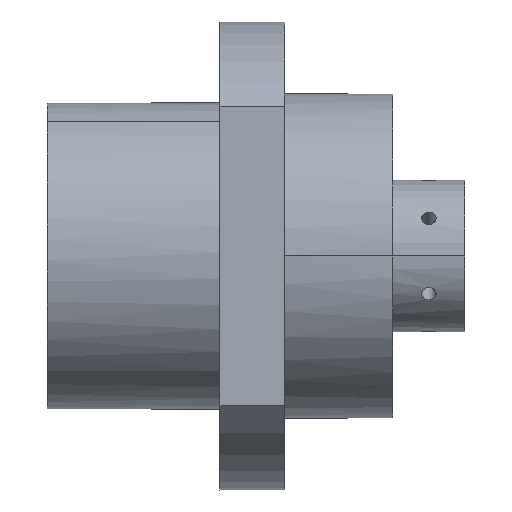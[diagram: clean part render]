
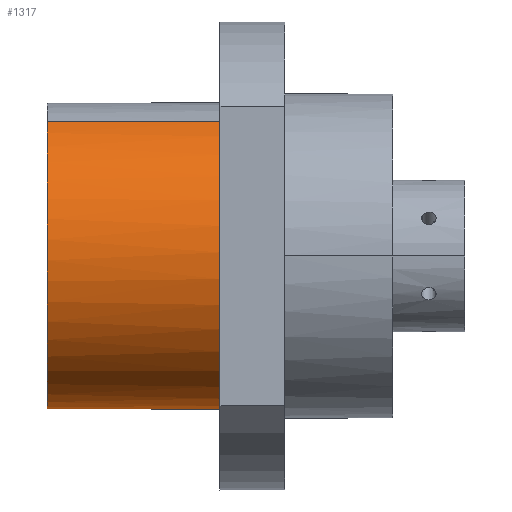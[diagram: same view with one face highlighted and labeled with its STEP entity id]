
A CAD part, front view. The second image highlights one B-rep face of the part: STEP entity #1317.
In plain terms, the highlighted cylindrical face has radius 42.5 mm (diameter 85 mm), a partial arc.
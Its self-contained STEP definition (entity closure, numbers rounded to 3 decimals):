
#673=CARTESIAN_POINT('Control Point',(-66.,-20.376,37.297)) ;
#674=CARTESIAN_POINT('Control Point',(-66.,-24.019,35.307)) ;
#675=CARTESIAN_POINT('Control Point',(-66.,-27.42,32.871)) ;
#676=CARTESIAN_POINT('Control Point',(-66.,-30.505,30.03)) ;
#677=CARTESIAN_POINT('Control Point',(-66.,-35.918,23.653)) ;
#678=CARTESIAN_POINT('Control Point',(-66.,-39.638,16.16)) ;
#679=CARTESIAN_POINT('Control Point',(-66.,-41.03,12.204)) ;
#680=CARTESIAN_POINT('Control Point',(-66.,-42.818,4.032)) ;
#681=CARTESIAN_POINT('Control Point',(-66.,-42.587,-4.33)) ;
#682=CARTESIAN_POINT('Control Point',(-66.,-41.958,-8.477)) ;
#683=CARTESIAN_POINT('Control Point',(-66.,-39.702,-16.532)) ;
#684=CARTESIAN_POINT('Control Point',(-66.,-35.574,-23.808)) ;
#685=CARTESIAN_POINT('Control Point',(-66.,-33.074,-27.175)) ;
#686=CARTESIAN_POINT('Control Point',(-66.,-27.302,-33.23)) ;
#687=CARTESIAN_POINT('Control Point',(-66.,-20.242,-37.718)) ;
#688=CARTESIAN_POINT('Control Point',(-66.,-16.454,-39.517)) ;
#689=CARTESIAN_POINT('Control Point',(-66.,-8.515,-42.156)) ;
#690=CARTESIAN_POINT('Control Point',(-66.,-0.175,-42.806)) ;
#691=CARTESIAN_POINT('Control Point',(-66.,4.014,-42.617)) ;
#692=CARTESIAN_POINT('Control Point',(-66.,9.919,-41.618)) ;
#693=CARTESIAN_POINT('Control Point',(-66.,15.527,-39.623)) ;
#694=CARTESIAN_POINT('Control Point',(-66.,17.184,-38.933)) ;
#695=CARTESIAN_POINT('Control Point',(-66.,18.803,-38.157)) ;
#696=CARTESIAN_POINT('Control Point',(-66.,20.376,-37.297)) ;
#697=CARTESIAN_POINT('Vertex',(-66.,-20.376,37.297)) ;
#699=CARTESIAN_POINT('Vertex',(-66.,20.376,-37.297)) ;
#1287=CARTESIAN_POINT('Axis2P3D Location',(-84.861,0.,0.)) ;
#1292=CARTESIAN_POINT('Line Origine',(-84.861,20.376,-37.297)) ;
#1296=CARTESIAN_POINT('Vertex',(-18.,20.376,-37.297)) ;
#1299=CARTESIAN_POINT('Axis2P3D Location',(-18.,0.,0.)) ;
#1303=CARTESIAN_POINT('Vertex',(-18.,-20.376,37.297)) ;
#1306=CARTESIAN_POINT('Line Origine',(-84.861,-20.376,37.297)) ;
#1288=DIRECTION('Axis2P3D Direction',(1.,0.,0.)) ;
#1289=DIRECTION('Axis2P3D XDirection',(0.,-0.479,0.878)) ;
#1293=DIRECTION('Vector Direction',(1.,0.,0.)) ;
#1300=DIRECTION('Axis2P3D Direction',(1.,0.,0.)) ;
#1307=DIRECTION('Vector Direction',(1.,0.,0.)) ;
#1290=AXIS2_PLACEMENT_3D('Cylinder Axis2P3D',#1287,#1288,#1289) ;
#1301=AXIS2_PLACEMENT_3D('Circle Axis2P3D',#1299,#1300,$) ;
#1312=ORIENTED_EDGE('',*,*,#1298,.F.) ;
#1313=ORIENTED_EDGE('',*,*,#1305,.F.) ;
#1314=ORIENTED_EDGE('',*,*,#1310,.T.) ;
#1315=ORIENTED_EDGE('',*,*,#701,.T.) ;
#1294=VECTOR('Line Direction',#1293,1.) ;
#1308=VECTOR('Line Direction',#1307,1.) ;
#1317=ADVANCED_FACE('WBK25DFT(H)',(#1316),#1291,.T.) ;
#672=B_SPLINE_CURVE_WITH_KNOTS('',5,(#673,#674,#675,#676,#677,#678,#679,#680,#681,#682,#683,#684,#685,#686,#687,#688,#689,#690,#691,#692,#693,#694,#695,#696),.UNSPECIFIED.,.F.,.U.,(6,3,3,3,3,3,3,6),(0.,29.358,58.716,88.073,117.431,146.789,176.147,188.821),.UNSPECIFIED.) ;
#1302=CIRCLE('generated circle',#1301,42.5) ;
#1291=CYLINDRICAL_SURFACE('generated cylinder',#1290,42.5) ;
#701=EDGE_CURVE('',#698,#700,#672,.T.) ;
#1298=EDGE_CURVE('',#1297,#700,#1295,.F.) ;
#1305=EDGE_CURVE('',#1304,#1297,#1302,.T.) ;
#1310=EDGE_CURVE('',#1304,#698,#1309,.F.) ;
#1311=EDGE_LOOP('',(#1312,#1313,#1314,#1315)) ;
#1316=FACE_OUTER_BOUND('',#1311,.T.) ;
#1295=LINE('Line',#1292,#1294) ;
#1309=LINE('Line',#1306,#1308) ;
#698=VERTEX_POINT('',#697) ;
#700=VERTEX_POINT('',#699) ;
#1297=VERTEX_POINT('',#1296) ;
#1304=VERTEX_POINT('',#1303) ;
